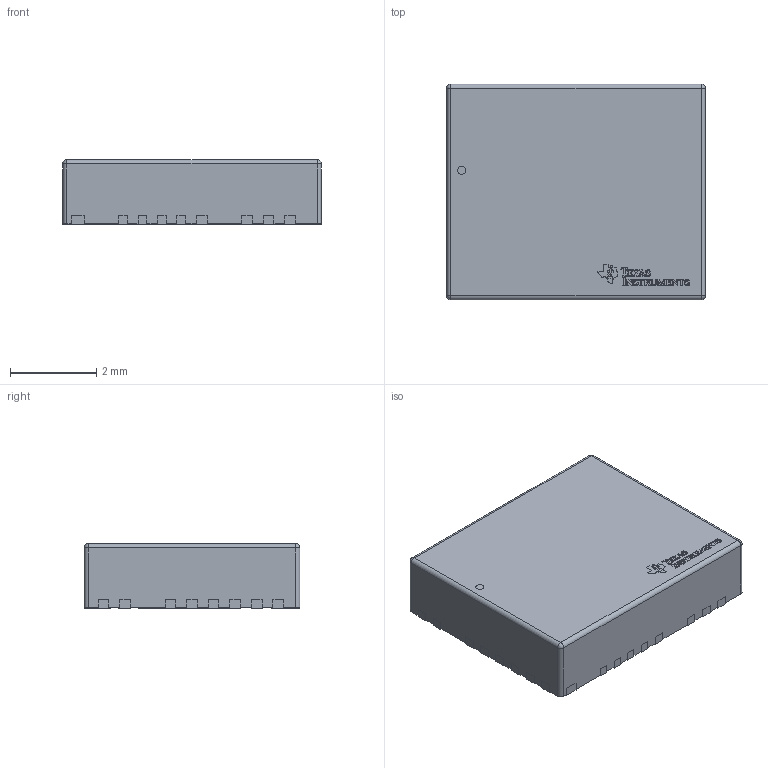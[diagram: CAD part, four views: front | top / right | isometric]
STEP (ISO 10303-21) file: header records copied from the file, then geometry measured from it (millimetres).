
FILE_DESCRIPTION(/* description */ (''),/* implementation_level */ '2;1');
FILE_NAME(/* name */ 'C:\Users\Kareem\Desktop\VMA0023A\2.stp',/* time_stamp */ '2023-11-15T10:40:15+02:00',/* author */ ('Kareem'),/* organization */ (''),/* preprocessor_version */ 'ST-DEVELOPER v15.6',/* originating_system */ 'Autodesk Inventor 2015',/* authorisation */ '');
FILE_SCHEMA (('AUTOMOTIVE_DESIGN { 1 0 10303 214 3 1 1 }'));
Length unit declared in the file: millimetre
Products named in the file (4): 1; 2; Texas Logo Yury
Bounding box: 6 x 5 x 1.5 mm (x, y, z)
Volume: 44.5 mm3; surface area: 137.6 mm2
Topology: 44 solids, 44 shells, 764 faces, 2013 edges, 1338 vertices
Faces by surface type: plane 541, bspline 166, cylinder 53, sphere 4
Full cylindrical faces by diameter (mm): 0.189 x1
Entity records: 24729 total; most frequent: CARTESIAN_POINT 6783, ORIENTED_EDGE 4024, DIRECTION 2996, EDGE_CURVE 2012, LINE 1574, VECTOR 1574, VERTEX_POINT 1338, EDGE_LOOP 770
